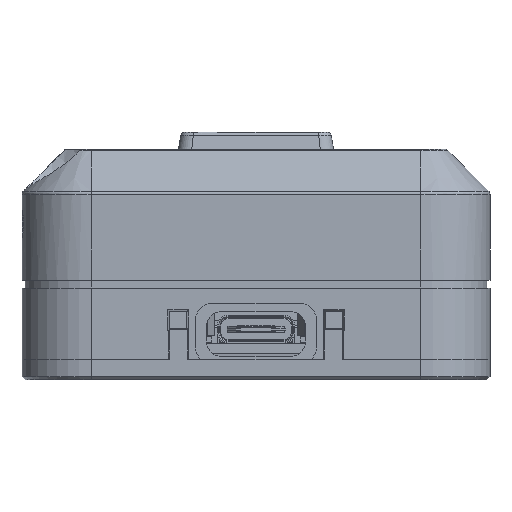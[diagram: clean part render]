
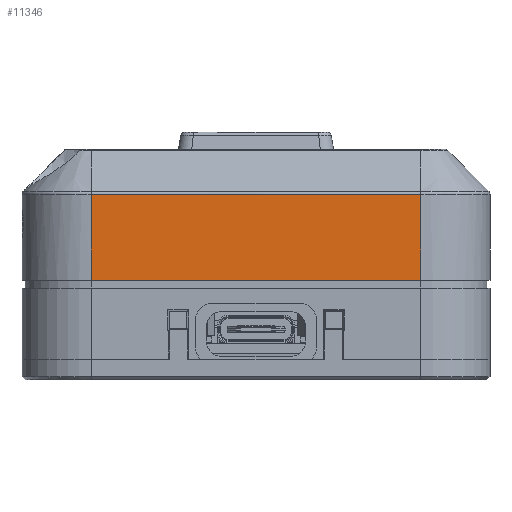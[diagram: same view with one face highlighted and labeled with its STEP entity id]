
A CAD part, front view. The second image highlights one B-rep face of the part: STEP entity #11346.
In plain terms, the highlighted planar face has unit normal (0, -1, 0).
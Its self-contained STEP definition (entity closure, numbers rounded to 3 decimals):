
#2977 = CYLINDRICAL_SURFACE('',#2978,0.5);
#2978 = AXIS2_PLACEMENT_3D('',#2979,#2980,#2981);
#2979 = CARTESIAN_POINT('',(19.,-23.5,21.393));
#2980 = DIRECTION('',(-1.,-0.,-0.));
#2981 = DIRECTION('',(0.,-1.,0.));
#3449 = VERTEX_POINT('',#3450);
#3450 = CARTESIAN_POINT('',(-19.,-24.,21.393));
#3468 = CYLINDRICAL_SURFACE('',#3469,8.);
#3469 = AXIS2_PLACEMENT_3D('',#3470,#3471,#3472);
#3470 = CARTESIAN_POINT('',(-19.,-16.,2.4));
#3471 = DIRECTION('',(0.,0.,1.));
#3472 = DIRECTION('',(-1.,-0.,0.));
#4240 = VERTEX_POINT('',#4241);
#4241 = CARTESIAN_POINT('',(19.,-24.,21.393));
#4282 = CYLINDRICAL_SURFACE('',#4283,8.);
#4283 = AXIS2_PLACEMENT_3D('',#4284,#4285,#4286);
#4284 = CARTESIAN_POINT('',(19.,-16.,2.4));
#4285 = DIRECTION('',(0.,0.,1.));
#4286 = DIRECTION('',(1.,0.,-0.));
#4305 = EDGE_CURVE('',#4240,#3449,#4306,.T.);
#4306 = SURFACE_CURVE('',#4307,(#4311,#4318),.PCURVE_S1.);
#4307 = LINE('',#4308,#4309);
#4308 = CARTESIAN_POINT('',(19.,-24.,21.393));
#4309 = VECTOR('',#4310,1.);
#4310 = DIRECTION('',(-1.,-0.,-0.));
#4311 = PCURVE('',#2977,#4312);
#4312 = DEFINITIONAL_REPRESENTATION('',(#4313),#4317);
#4313 = LINE('',#4314,#4315);
#4314 = CARTESIAN_POINT('',(0.,0.));
#4315 = VECTOR('',#4316,1.);
#4316 = DIRECTION('',(0.,1.));
#4317 = ( GEOMETRIC_REPRESENTATION_CONTEXT(2) 
PARAMETRIC_REPRESENTATION_CONTEXT() REPRESENTATION_CONTEXT('2D SPACE',''
  ) );
#4318 = PCURVE('',#4319,#4324);
#4319 = PLANE('',#4320);
#4320 = AXIS2_PLACEMENT_3D('',#4321,#4322,#4323);
#4321 = CARTESIAN_POINT('',(-27.,-24.,2.4));
#4322 = DIRECTION('',(0.,1.,0.));
#4323 = DIRECTION('',(0.,0.,1.));
#4324 = DEFINITIONAL_REPRESENTATION('',(#4325),#4329);
#4325 = LINE('',#4326,#4327);
#4326 = CARTESIAN_POINT('',(18.993,46.));
#4327 = VECTOR('',#4328,1.);
#4328 = DIRECTION('',(0.,-1.));
#4329 = ( GEOMETRIC_REPRESENTATION_CONTEXT(2) 
PARAMETRIC_REPRESENTATION_CONTEXT() REPRESENTATION_CONTEXT('2D SPACE',''
  ) );
#4775 = VERTEX_POINT('',#4776);
#4776 = CARTESIAN_POINT('',(-19.,-24.,11.5));
#4791 = PLANE('',#4792);
#4792 = AXIS2_PLACEMENT_3D('',#4793,#4794,#4795);
#4793 = CARTESIAN_POINT('',(-27.5,-24.5,11.5));
#4794 = DIRECTION('',(0.,0.,1.));
#4795 = DIRECTION('',(1.,0.,0.));
#4803 = EDGE_CURVE('',#4775,#3449,#4804,.T.);
#4804 = SURFACE_CURVE('',#4805,(#4809,#4816),.PCURVE_S1.);
#4805 = LINE('',#4806,#4807);
#4806 = CARTESIAN_POINT('',(-19.,-24.,2.4));
#4807 = VECTOR('',#4808,1.);
#4808 = DIRECTION('',(0.,0.,1.));
#4809 = PCURVE('',#3468,#4810);
#4810 = DEFINITIONAL_REPRESENTATION('',(#4811),#4815);
#4811 = LINE('',#4812,#4813);
#4812 = CARTESIAN_POINT('',(1.571,0.));
#4813 = VECTOR('',#4814,1.);
#4814 = DIRECTION('',(0.,1.));
#4815 = ( GEOMETRIC_REPRESENTATION_CONTEXT(2) 
PARAMETRIC_REPRESENTATION_CONTEXT() REPRESENTATION_CONTEXT('2D SPACE',''
  ) );
#4816 = PCURVE('',#4319,#4817);
#4817 = DEFINITIONAL_REPRESENTATION('',(#4818),#4822);
#4818 = LINE('',#4819,#4820);
#4819 = CARTESIAN_POINT('',(0.,8.));
#4820 = VECTOR('',#4821,1.);
#4821 = DIRECTION('',(1.,0.));
#4822 = ( GEOMETRIC_REPRESENTATION_CONTEXT(2) 
PARAMETRIC_REPRESENTATION_CONTEXT() REPRESENTATION_CONTEXT('2D SPACE',''
  ) );
#11302 = VERTEX_POINT('',#11303);
#11303 = CARTESIAN_POINT('',(19.,-24.,11.5));
#11325 = EDGE_CURVE('',#11302,#4240,#11326,.T.);
#11326 = SURFACE_CURVE('',#11327,(#11331,#11338),.PCURVE_S1.);
#11327 = LINE('',#11328,#11329);
#11328 = CARTESIAN_POINT('',(19.,-24.,2.4));
#11329 = VECTOR('',#11330,1.);
#11330 = DIRECTION('',(0.,0.,1.));
#11331 = PCURVE('',#4282,#11332);
#11332 = DEFINITIONAL_REPRESENTATION('',(#11333),#11337);
#11333 = LINE('',#11334,#11335);
#11334 = CARTESIAN_POINT('',(-1.571,0.));
#11335 = VECTOR('',#11336,1.);
#11336 = DIRECTION('',(-0.,1.));
#11337 = ( GEOMETRIC_REPRESENTATION_CONTEXT(2) 
PARAMETRIC_REPRESENTATION_CONTEXT() REPRESENTATION_CONTEXT('2D SPACE',''
  ) );
#11338 = PCURVE('',#4319,#11339);
#11339 = DEFINITIONAL_REPRESENTATION('',(#11340),#11344);
#11340 = LINE('',#11341,#11342);
#11341 = CARTESIAN_POINT('',(0.,46.));
#11342 = VECTOR('',#11343,1.);
#11343 = DIRECTION('',(1.,0.));
#11344 = ( GEOMETRIC_REPRESENTATION_CONTEXT(2) 
PARAMETRIC_REPRESENTATION_CONTEXT() REPRESENTATION_CONTEXT('2D SPACE',''
  ) );
#11346 = ADVANCED_FACE('',(#11347),#4319,.F.);
#11347 = FACE_BOUND('',#11348,.F.);
#11348 = EDGE_LOOP('',(#11349,#11368,#11369,#11370));
#11349 = ORIENTED_EDGE('',*,*,#11350,.F.);
#11350 = EDGE_CURVE('',#4775,#11302,#11351,.T.);
#11351 = SURFACE_CURVE('',#11352,(#11356,#11362),.PCURVE_S1.);
#11352 = LINE('',#11353,#11354);
#11353 = CARTESIAN_POINT('',(-27.25,-24.,11.5));
#11354 = VECTOR('',#11355,1.);
#11355 = DIRECTION('',(1.,0.,0.));
#11356 = PCURVE('',#4319,#11357);
#11357 = DEFINITIONAL_REPRESENTATION('',(#11358),#11361);
#11358 = B_SPLINE_CURVE_WITH_KNOTS('',1,(#11359,#11360),.UNSPECIFIED.,
  .F.,.F.,(2,2),(8.25,46.25),.PIECEWISE_BEZIER_KNOTS.);
#11359 = CARTESIAN_POINT('',(9.1,8.));
#11360 = CARTESIAN_POINT('',(9.1,46.));
#11361 = ( GEOMETRIC_REPRESENTATION_CONTEXT(2) 
PARAMETRIC_REPRESENTATION_CONTEXT() REPRESENTATION_CONTEXT('2D SPACE',''
  ) );
#11362 = PCURVE('',#4791,#11363);
#11363 = DEFINITIONAL_REPRESENTATION('',(#11364),#11367);
#11364 = B_SPLINE_CURVE_WITH_KNOTS('',1,(#11365,#11366),.UNSPECIFIED.,
  .F.,.F.,(2,2),(8.25,46.25),.PIECEWISE_BEZIER_KNOTS.);
#11365 = CARTESIAN_POINT('',(8.5,0.5));
#11366 = CARTESIAN_POINT('',(46.5,0.5));
#11367 = ( GEOMETRIC_REPRESENTATION_CONTEXT(2) 
PARAMETRIC_REPRESENTATION_CONTEXT() REPRESENTATION_CONTEXT('2D SPACE',''
  ) );
#11368 = ORIENTED_EDGE('',*,*,#4803,.T.);
#11369 = ORIENTED_EDGE('',*,*,#4305,.F.);
#11370 = ORIENTED_EDGE('',*,*,#11325,.F.);
